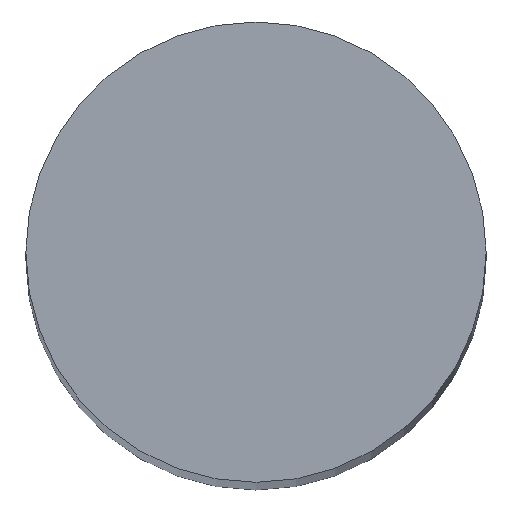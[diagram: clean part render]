
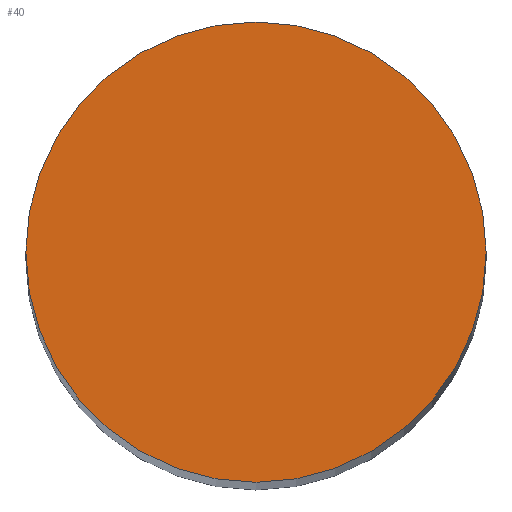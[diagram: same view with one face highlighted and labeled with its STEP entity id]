
A CAD part, top view. The second image highlights one B-rep face of the part: STEP entity #40.
In plain terms, the highlighted planar face has unit normal (0, 0, 1).
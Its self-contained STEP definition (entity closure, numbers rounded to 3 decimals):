
#15=PLANE('',#59);
#18=FACE_OUTER_BOUND('',#21,.T.);
#21=EDGE_LOOP('',(#36));
#26=CIRCLE('',#58,0.75);
#28=VERTEX_POINT('',#78);
#31=EDGE_CURVE('',#28,#28,#26,.T.);
#36=ORIENTED_EDGE('',*,*,#31,.T.);
#40=ADVANCED_FACE('',(#18),#15,.T.);
#58=AXIS2_PLACEMENT_3D('',#80,#68,#69);
#59=AXIS2_PLACEMENT_3D('',#81,#70,#71);
#68=DIRECTION('center_axis',(0.,0.,1.));
#69=DIRECTION('ref_axis',(1.,0.,0.));
#70=DIRECTION('center_axis',(0.,0.,1.));
#71=DIRECTION('ref_axis',(1.,0.,0.));
#78=CARTESIAN_POINT('',(0.75,0.,14.3));
#80=CARTESIAN_POINT('Origin',(0.,0.,14.3));
#81=CARTESIAN_POINT('Origin',(0.,0.,14.3));
